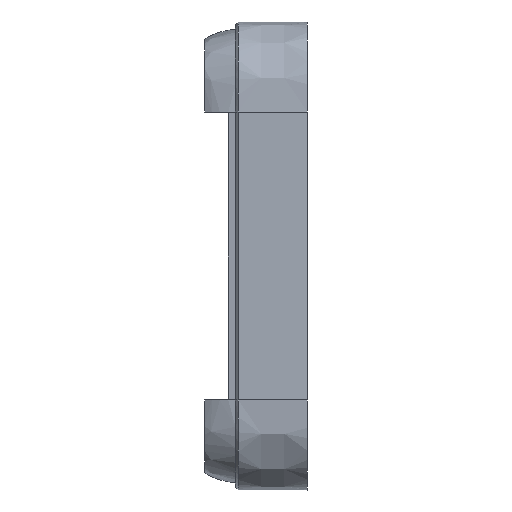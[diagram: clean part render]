
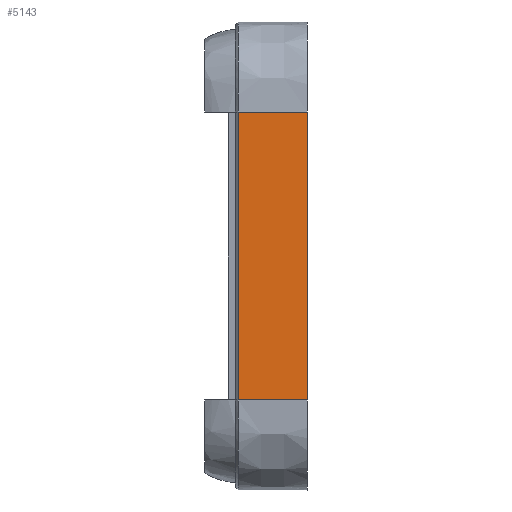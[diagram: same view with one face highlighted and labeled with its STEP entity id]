
A CAD part, front view. The second image highlights one B-rep face of the part: STEP entity #5143.
In plain terms, the highlighted planar face has unit normal (0, -1, 0).
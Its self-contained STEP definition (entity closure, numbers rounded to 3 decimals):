
#45=PLANE('',#5413);
#420=FACE_OUTER_BOUND('',#740,.T.);
#740=EDGE_LOOP('',(#4323,#4324,#4325,#4326));
#1585=LINE('',#16005,#1793);
#1600=LINE('',#17167,#1808);
#1604=LINE('',#18056,#1812);
#1605=LINE('',#18058,#1813);
#1793=VECTOR('',#5919,10.);
#1808=VECTOR('',#5946,10.);
#1812=VECTOR('',#5962,10.);
#1813=VECTOR('',#5965,10.);
#2215=VERTEX_POINT('',#15991);
#2216=VERTEX_POINT('',#16004);
#2248=VERTEX_POINT('',#17150);
#2249=VERTEX_POINT('',#18054);
#2915=EDGE_CURVE('',#2216,#2215,#1585,.T.);
#2961=EDGE_CURVE('',#2215,#2248,#1600,.T.);
#2972=EDGE_CURVE('',#2249,#2248,#1604,.T.);
#2973=EDGE_CURVE('',#2216,#2249,#1605,.T.);
#4323=ORIENTED_EDGE('',*,*,#2961,.T.);
#4324=ORIENTED_EDGE('',*,*,#2972,.F.);
#4325=ORIENTED_EDGE('',*,*,#2973,.F.);
#4326=ORIENTED_EDGE('',*,*,#2915,.T.);
#5143=ADVANCED_FACE('',(#420),#45,.T.);
#5413=AXIS2_PLACEMENT_3D('',#18057,#5963,#5964);
#5919=DIRECTION('',(0.,0.,1.));
#5946=DIRECTION('',(-1.,0.,0.));
#5962=DIRECTION('',(0.,0.,1.));
#5963=DIRECTION('center_axis',(0.,-1.,0.));
#5964=DIRECTION('ref_axis',(1.,0.,0.));
#5965=DIRECTION('',(-1.,0.,0.));
#15991=CARTESIAN_POINT('',(180.,-90.,16.5));
#16004=CARTESIAN_POINT('',(180.,-90.,-63.5));
#16005=CARTESIAN_POINT('',(180.,-90.,-101.));
#17150=CARTESIAN_POINT('',(160.8,-90.,16.5));
#17167=CARTESIAN_POINT('',(162.85,-90.,16.5));
#18054=CARTESIAN_POINT('',(160.8,-90.,-63.5));
#18056=CARTESIAN_POINT('',(160.8,-90.,-101.));
#18057=CARTESIAN_POINT('Origin',(160.,-90.,-101.));
#18058=CARTESIAN_POINT('',(160.,-90.,-63.5));
